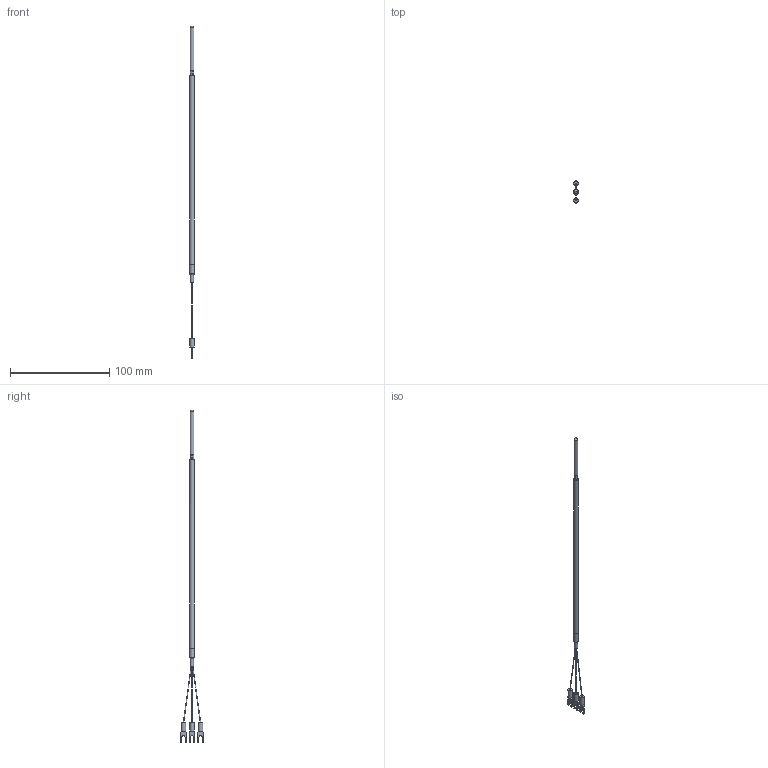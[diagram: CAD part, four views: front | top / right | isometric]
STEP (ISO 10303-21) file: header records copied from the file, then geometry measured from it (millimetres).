
FILE_DESCRIPTION (( 'STEP AP203' ), '1' );
FILE_NAME ('YIR102-4(0).STEP', '2024-08-28T04:32:47', ( '' ), ( '' ), 'SwSTEP 2.0', 'SolidWorks 2021', '' );
FILE_SCHEMA (( 'CONFIG_CONTROL_DESIGN' ));
Length unit declared in the file: millimetre
Products named in the file (1): YIR102-4(0)
Bounding box: 5 x 22.96 x 334.72 mm (x, y, z)
Volume: 4868.2 mm3; surface area: 4834.8 mm2
Topology: 1 solids, 1 shells, 86 faces, 206 edges, 132 vertices
Faces by surface type: plane 51, cylinder 29, cone 4, bspline 2
Full cylindrical faces by diameter (mm): 0.5 x1, 3.16 x1, 4 x1, 4.5 x3, 4.8 x1, 5 x1
Entity records: 2489 total; most frequent: CARTESIAN_POINT 431, DIRECTION 428, ORIENTED_EDGE 378, EDGE_CURVE 189, AXIS2_PLACEMENT_3D 154, VERTEX_POINT 129, LINE 120, VECTOR 120
